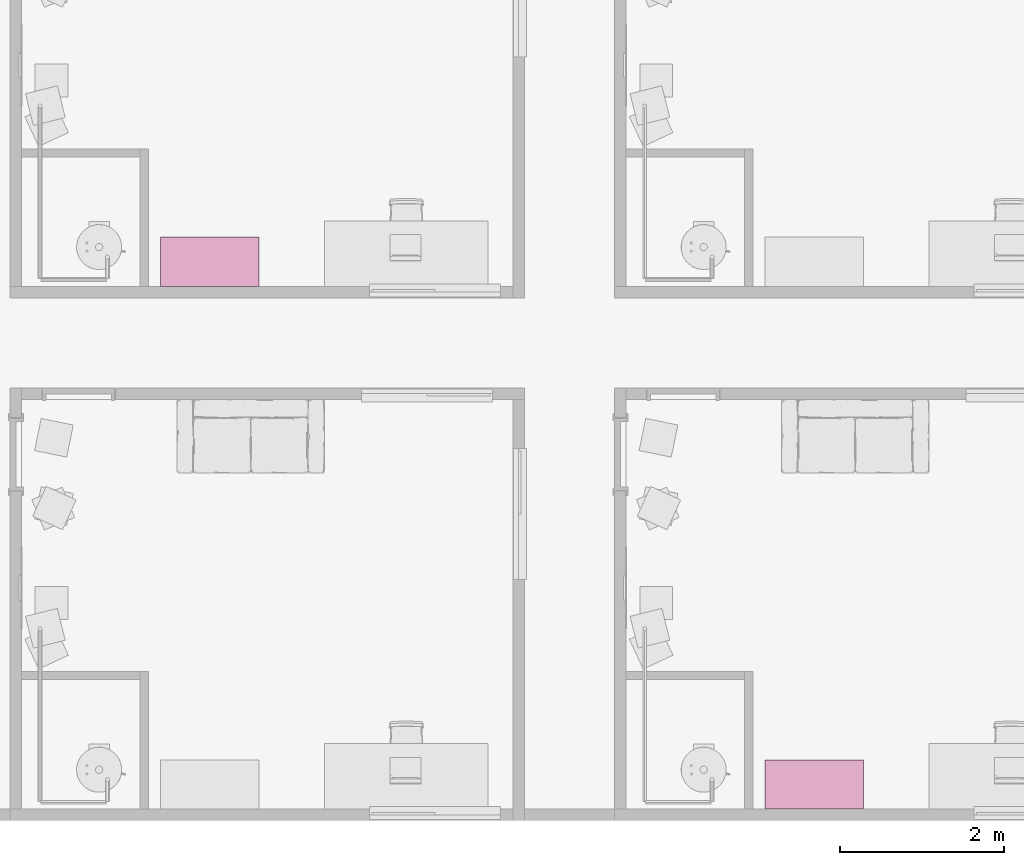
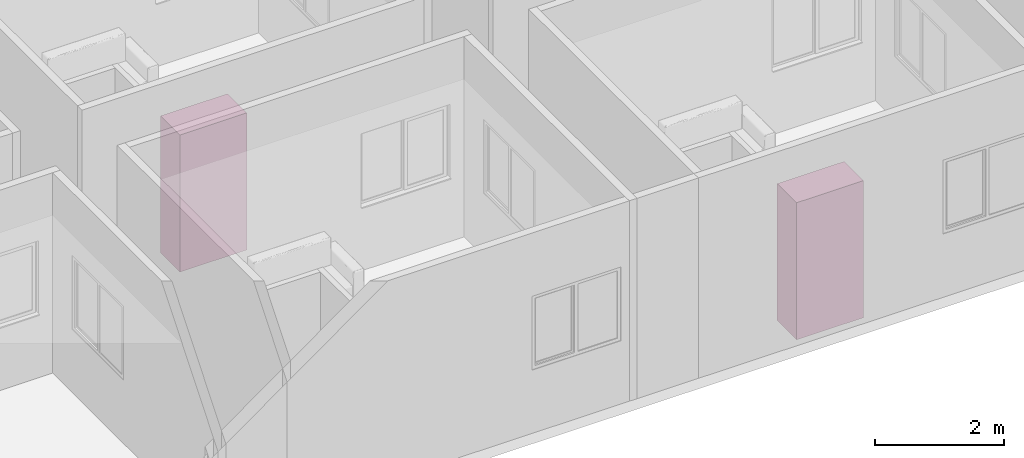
# One storey, part 64 of 71: 2 furniture elements.
"""IFC4 building model written with IfcOpenShell, lengths in centimetres."""

import ifcopenshell
import ifcopenshell.guid

model = None  # the IFC model being written
_history = None  # IfcOwnerHistory: only IFC2X3 demands one
_inside = {}  # id of a spatial element -> (the spatial element, [elements in it])
_under = {}  # id of a project, library or spatial element -> (it, [spatial elements below it])
_declared = {}  # id of a project -> (the project, [libraries it declares])
_typed = {}  # id of a type object -> (the type object, [elements of that type])
_made_of = {}  # id of a material, layer set ... -> (it, [elements and type objects made of it])


def new_model(schema):
    """Start an empty IFC model of exactly this schema.

    Asked for "IFC4X3", IfcOpenShell would pick the latest addendum, in which some entities
    have other attributes; the version numbers below select the first issue.
    IFC2X3 requires an IfcOwnerHistory on every rooted entity: one is made here for all.
    """
    global model, _history
    if schema == "IFC4X3":
        model = ifcopenshell.file(schema_version=(4, 3, 0, 0))
    else:
        model = ifcopenshell.file(schema=schema)
    _inside.clear()
    _under.clear()
    _declared.clear()
    _typed.clear()
    _made_of.clear()
    _history = None
    if model.schema == "IFC2X3":
        org = make("IfcOrganization", Name="unknown")
        user = make(
            "IfcPersonAndOrganization",
            ThePerson=make("IfcPerson", FamilyName="unknown"),
            TheOrganization=org,
        )
        app = make(
            "IfcApplication",
            ApplicationDeveloper=org,
            Version="unknown",
            ApplicationFullName="unknown",
            ApplicationIdentifier="unknown",
        )
        _history = make(
            "IfcOwnerHistory",
            OwningUser=user,
            OwningApplication=app,
            ChangeAction="ADDED",
            CreationDate=0,
        )
    return model


def make(cls, **values):
    """One entity of the class cls with the attributes given. An attribute that is None is left unset."""
    return model.create_entity(
        cls, **{name: value for name, value in values.items() if value is not None}
    )


def entity(cls, *values):
    """Any entity or typed value of the class cls, its attributes in the order of the schema. None: left unset."""
    e = model.create_entity(cls)
    for i, value in enumerate(values):
        if value is not None:
            e[i] = value
    return e


def rooted(cls, **values):
    """An entity with a GlobalId (a new one), such as an element, a storey or a relation."""
    return make(cls, GlobalId=ifcopenshell.guid.new(), OwnerHistory=_history, **values)


def si_unit(unit_type, name, prefix=None):
    """IfcSIUnit, for example si_unit("LENGTHUNIT", "METRE", prefix="MILLI")."""
    return make("IfcSIUnit", UnitType=unit_type, Prefix=prefix, Name=name)


def converted_unit(unit_type, name, factor, base, dimensions=None, offset=None):
    """IfcConversionBasedUnit, such as the inch: factor (a typed value) times the base unit."""
    return make(
        "IfcConversionBasedUnit"
        if offset is None
        else "IfcConversionBasedUnitWithOffset",
        ConversionOffset=offset,
        Dimensions=None
        if dimensions is None
        else entity("IfcDimensionalExponents", *dimensions),
        UnitType=unit_type,
        Name=name,
        ConversionFactor=make(
            "IfcMeasureWithUnit", ValueComponent=factor, UnitComponent=base
        ),
    )


def derived_unit(unit_type, elements):
    """IfcDerivedUnit: a product of units, each with its exponent."""
    return make(
        "IfcDerivedUnit",
        Elements=[
            make("IfcDerivedUnitElement", Unit=unit, Exponent=power)
            for unit, power in elements
        ],
        UnitType=unit_type,
    )


def assignment(units):
    """IfcUnitAssignment: the units of a project."""
    return None if units is None else make("IfcUnitAssignment", Units=units)


def point(xyz):
    """IfcCartesianPoint."""
    return None if xyz is None else make("IfcCartesianPoint", Coordinates=xyz)


def direction(xyz):
    """IfcDirection."""
    return None if xyz is None else make("IfcDirection", DirectionRatios=xyz)


def frame(location, z_axis=None, x_axis=None):
    """IfcAxis2Placement3D, a coordinate frame: its origin and axes. An axis left out is left unset."""
    return make(
        "IfcAxis2Placement3D",
        Location=point(location),
        Axis=direction(z_axis),
        RefDirection=direction(x_axis),
    )


def origin():
    """The frame at (0, 0, 0) with its axes left unset."""
    return frame((0.0, 0.0, 0.0))


def place(relative_to, where):
    """IfcLocalPlacement: puts the frame where relative to a parent placement (None: the world)."""
    return make(
        "IfcLocalPlacement", PlacementRelTo=relative_to, RelativePlacement=where
    )


def context(
    kind, dimensions, precision=None, world=None, true_north=None, identifier=None
):
    """IfcGeometricRepresentationContext, for example the 3D "Model" context."""
    return make(
        "IfcGeometricRepresentationContext",
        ContextIdentifier=identifier,
        ContextType=kind,
        CoordinateSpaceDimension=dimensions,
        Precision=precision,
        WorldCoordinateSystem=world,
        TrueNorth=true_north,
    )


def subcontext(parent, identifier, kind, view, scale=None):
    """IfcGeometricRepresentationSubContext, for example "Body" below "Model"."""
    return make(
        "IfcGeometricRepresentationSubContext",
        ContextIdentifier=identifier,
        ContextType=kind,
        ParentContext=parent,
        TargetScale=scale,
        TargetView=view,
    )


def project(units=None, contexts=None):
    """IfcProject with its units and contexts."""
    return rooted(
        "IfcProject",
        Name="project",
        RepresentationContexts=contexts,
        UnitsInContext=assignment(units),
    )


def spatial(cls, under=None, at=None, **own):
    """A site, building, storey or space (cls), placed at a placement, below another one or the project."""
    s = rooted(cls, ObjectPlacement=at, **own)
    if under is not None:
        _under.setdefault(under.id(), (under, []))[1].append(s)
    return s


def point_list(points):
    """IfcCartesianPointList2D or 3D."""
    cls = (
        "IfcCartesianPointList2D" if len(points[0]) == 2 else "IfcCartesianPointList3D"
    )
    return make(cls, CoordList=points)


def indexed_curve(points, segments=None, self_intersect=None):
    """IfcIndexedPolyCurve: lines and arcs through numbered points (the first is 1)."""
    return make(
        "IfcIndexedPolyCurve",
        Points=point_list(points),
        Segments=segments,
        SelfIntersect=self_intersect,
    )


def outline(outer, holes=None, kind="AREA"):
    """IfcArbitraryClosedProfileDef: a profile drawn as a closed curve; with holes, ...WithVoids."""
    if holes is None:
        return make("IfcArbitraryClosedProfileDef", ProfileType=kind, OuterCurve=outer)
    return make(
        "IfcArbitraryProfileDefWithVoids",
        ProfileType=kind,
        OuterCurve=outer,
        InnerCurves=holes,
    )


def extrude(swept, where, along, depth):
    """IfcExtrudedAreaSolid: the profile swept, set in the frame where, extruded along a direction by depth."""
    return make(
        "IfcExtrudedAreaSolid",
        SweptArea=swept,
        Position=where,
        ExtrudedDirection=direction(along),
        Depth=depth,
    )


def shape(context_of_items, identifier, shape_type, items):
    """IfcShapeRepresentation: the items that make up one representation, for example the "Body"."""
    return make(
        "IfcShapeRepresentation",
        ContextOfItems=context_of_items,
        RepresentationIdentifier=identifier,
        RepresentationType=shape_type,
        Items=items,
    )


def source(mapping_origin, context_of_items, identifier, shape_type, items):
    """IfcRepresentationMap: a shape defined once, which mapped items show again and again."""
    return make(
        "IfcRepresentationMap",
        MappingOrigin=mapping_origin,
        MappedRepresentation=shape(context_of_items, identifier, shape_type, items),
    )


def transform(
    local_origin,
    x_axis=None,
    y_axis=None,
    z_axis=None,
    scale=None,
    scale2=None,
    scale3=None,
    uniform=True,
):
    """IfcCartesianTransformationOperator3D, or its non-uniform kind. x_axis, y_axis, z_axis: its Axis1, 2, 3."""
    if uniform:
        return make(
            "IfcCartesianTransformationOperator3D",
            Axis1=direction(x_axis),
            Axis2=direction(y_axis),
            LocalOrigin=point(local_origin),
            Scale=scale,
            Axis3=direction(z_axis),
        )
    return make(
        "IfcCartesianTransformationOperator3DnonUniform",
        Axis1=direction(x_axis),
        Axis2=direction(y_axis),
        LocalOrigin=point(local_origin),
        Scale=scale,
        Axis3=direction(z_axis),
        Scale2=scale2,
        Scale3=scale3,
    )


def mapped(mapping_source, mapping_target):
    """IfcMappedItem: shows the shape of a source again, moved by a transform."""
    return make(
        "IfcMappedItem", MappingSource=mapping_source, MappingTarget=mapping_target
    )


def material(Name=None, Category=None):
    """IfcMaterial."""
    return make("IfcMaterial", Name=Name, Category=Category)


def made_of(thing, what):
    """Note that an element or type object is made of a material, layer set ...; save() writes the relation."""
    if what is not None:
        _made_of.setdefault(what.id(), (what, []))[1].append(thing)
    return thing


def type_object(cls, material=None, **own):
    """A type object (cls), such as IfcWallType, which elements share."""
    return made_of(rooted(cls, **own), material)


def type_shapes(of_type, sources):
    """Give a type object the sources (RepresentationMaps) that its elements show as mapped items."""
    of_type.RepresentationMaps = sources


def element(
    cls,
    number,
    at=None,
    inside=None,
    cuts=None,
    type_object=None,
    material=None,
    context=None,
    identifier="Body",
    shape_type=None,
    held_by="IfcProductDefinitionShape",
    body=None,
    shapes=None,
    **own,
):
    """One element of the class cls, such as IfcWall. Its Tag is "e" and its number.

    at: its placement. inside: the storey or other place that contains it. cuts: it is an
    opening in that element (IfcRelVoidsElement). A single representation is given by context,
    identifier, shape_type and body (its items); several are given by shapes. held_by: the class
    of the entity that holds the representations. save() writes the other relations.
    """
    e = rooted(cls, Tag="e%d" % number, ObjectPlacement=at, **own)
    if body is not None:
        shapes = [shape(context, identifier, shape_type, body)]
    if shapes is not None:
        e.Representation = make(held_by, Representations=shapes)
    if inside is not None:
        _inside.setdefault(inside.id(), (inside, []))[1].append(e)
    if cuts is not None:
        rooted(
            "IfcRelVoidsElement", RelatingBuildingElement=cuts, RelatedOpeningElement=e
        )
    if type_object is not None:
        _typed.setdefault(type_object.id(), (type_object, []))[1].append(e)
    return made_of(e, material)


def aggregate(whole, parts):
    """IfcRelAggregates: a whole, such as a stair, and the parts it consists of."""
    return rooted("IfcRelAggregates", RelatingObject=whole, RelatedObjects=parts)


def save(model, path):
    """Write the relations noted so far, then the file.

    IfcRelAggregates (storeys below a building ...), IfcRelContainedInSpatialStructure (elements
    in a storey), IfcRelDefinesByType, IfcRelAssociatesMaterial and IfcRelDeclares: one each for
    every whole, place, type object, material and project.
    """
    for whole, parts in _under.values():
        aggregate(whole, parts)
    for where, things in _inside.values():
        rooted(
            "IfcRelContainedInSpatialStructure",
            RelatedElements=things,
            RelatingStructure=where,
        )
    for kind, things in _typed.values():
        rooted("IfcRelDefinesByType", RelatedObjects=things, RelatingType=kind)
    for what, things in _made_of.values():
        rooted("IfcRelAssociatesMaterial", RelatedObjects=things, RelatingMaterial=what)
    for by, libraries in _declared.values():
        rooted("IfcRelDeclares", RelatingContext=by, RelatedDefinitions=libraries)
    model.write(path)


model = new_model("IFC4")

# Units and contexts
model_context = context("Model", 3, precision=0.001, world=origin(), true_north=direction((6.123233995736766e-17, 1.0)))
body_context = subcontext(model_context, "Body", "Model", "MODEL_VIEW")
ifc_project = project(units=[si_unit("LENGTHUNIT", "METRE", prefix="CENTI"), si_unit("AREAUNIT", "SQUARE_METRE"), si_unit("VOLUMEUNIT", "CUBIC_METRE"), derived_unit("THERMALTRANSMITTANCEUNIT", [(si_unit("MASSUNIT", "GRAM", prefix="KILO"), 1), (si_unit("THERMODYNAMICTEMPERATUREUNIT", "KELVIN"), -1), (si_unit("TIMEUNIT", "SECOND"), -3)]), converted_unit("PLANEANGLEUNIT", "DEGREE", entity("IfcPlaneAngleMeasure", 0.017453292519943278), si_unit("PLANEANGLEUNIT", "RADIAN"), dimensions=[0, 0, 0, 0, 0, 0, 0]), derived_unit("MASSDENSITYUNIT", [(si_unit("MASSUNIT", "GRAM", prefix="KILO"), 1), (si_unit("LENGTHUNIT", "METRE"), -3)]), derived_unit("VAPORPERMEABILITYUNIT", [(si_unit("LENGTHUNIT", "METRE"), -1), (si_unit("TIMEUNIT", "SECOND"), 1)]), derived_unit("USERDEFINED", [(si_unit("MASSUNIT", "GRAM", prefix="KILO"), 1), (si_unit("TIMEUNIT", "SECOND"), -3), (si_unit("LENGTHUNIT", "METRE"), 3), (si_unit("ELECTRICCURRENTUNIT", "AMPERE"), -2)]), derived_unit("SPECIFICHEATCAPACITYUNIT", [(si_unit("THERMODYNAMICTEMPERATUREUNIT", "KELVIN"), -1), (si_unit("LENGTHUNIT", "METRE"), 2), (si_unit("TIMEUNIT", "SECOND"), -2)]), derived_unit("THERMALCONDUCTANCEUNIT", [(si_unit("MASSUNIT", "GRAM", prefix="KILO"), 1), (si_unit("THERMODYNAMICTEMPERATUREUNIT", "KELVIN"), -1), (si_unit("TIMEUNIT", "SECOND"), -3), (si_unit("LENGTHUNIT", "METRE"), 1)]), si_unit("PRESSUREUNIT", "PASCAL"), derived_unit("MODULUSOFELASTICITYUNIT", [(si_unit("MASSUNIT", "GRAM", prefix="KILO"), 1), (si_unit("LENGTHUNIT", "METRE"), -1), (si_unit("TIMEUNIT", "SECOND"), -2)]), derived_unit("THERMALEXPANSIONCOEFFICIENTUNIT", [(si_unit("THERMODYNAMICTEMPERATUREUNIT", "KELVIN"), -1)])], contexts=[model_context])

# Site, building, storey, space
site_placement = place(None, origin())
site = spatial("IfcSite", under=ifc_project, at=site_placement, Name="Default", CompositionType="ELEMENT")
building_placement = place(site_placement, origin())
building = spatial("IfcBuilding", under=site, at=building_placement, Name="IDS Escape Game Building", CompositionType="ELEMENT")
storey_placement = place(building_placement, frame((0.0, 0.0, 1200.0)))
storey = spatial("IfcBuildingStorey", under=building, at=storey_placement, Name="03_Third Floor", CompositionType="ELEMENT", Elevation=1200.0)
space_1_placement = place(storey_placement, origin())
space_1 = spatial("IfcSpace", under=storey, at=space_1_placement, Name="111", CompositionType="ELEMENT", PredefinedType="NOTDEFINED")

# Furniture
ifc_material = material(Name="<Unnamed>")
furniture_type = type_object("IfcFurnitureType", Name="BPL_82.11_CA_UN_kast_gen_BERSnl:type 1", AssemblyPlace="NOTDEFINED", PredefinedType="NOTDEFINED", material=ifc_material)
shared_shape = source(origin(), body_context, "Body", "SweptSolid", [
    extrude(outline(indexed_curve([(-59.99999999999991, -29.999999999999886), (59.99999999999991, -29.999999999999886), (59.99999999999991, 29.999999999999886), (-59.99999999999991, 29.999999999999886), (-59.99999999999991, -29.999999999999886)], self_intersect=False)), frame((-60.0, -30.0, 0.0), z_axis=(0.0, 0.0, 1.0), x_axis=(-1.0, 0.0, 0.0)), (0.0, 0.0, 1.0), 260.0),
])
type_shapes(furniture_type, [shared_shape])
furniture_1_placement = place(space_1_placement, frame((3987.0, 73.0, 0.0)))
element("IfcFurniture", 1, at=furniture_1_placement, inside=space_1, type_object=furniture_type, material=ifc_material, Name="BPL_82.11_CA_UN_kast_gen_BERSnl:type 1", ObjectType="BPL_82.11_CA_UN_kast_gen_BERSnl:type 1", PredefinedType="NOTDEFINED", context=body_context, shape_type="MappedRepresentation", body=[
    mapped(shared_shape, transform((0.0, 0.0, 0.0), scale=1.0)),
])

# Space
space_2_placement = place(storey_placement, origin())
space_2 = spatial("IfcSpace", under=storey, at=space_2_placement, Name="117", CompositionType="ELEMENT", PredefinedType="NOTDEFINED")

# Furniture
furniture_2_placement = place(space_2_placement, frame((3249.0, 711.0, 0.0)))
element("IfcFurniture", 2, at=furniture_2_placement, inside=space_2, type_object=furniture_type, material=ifc_material, Name="BPL_82.11_CA_UN_kast_gen_BERSnl:type 1", ObjectType="BPL_82.11_CA_UN_kast_gen_BERSnl:type 1", PredefinedType="NOTDEFINED", context=body_context, shape_type="MappedRepresentation", body=[
    mapped(shared_shape, transform((0.0, 0.0, 0.0), scale=1.0)),
])

save(model, "model.ifc")
